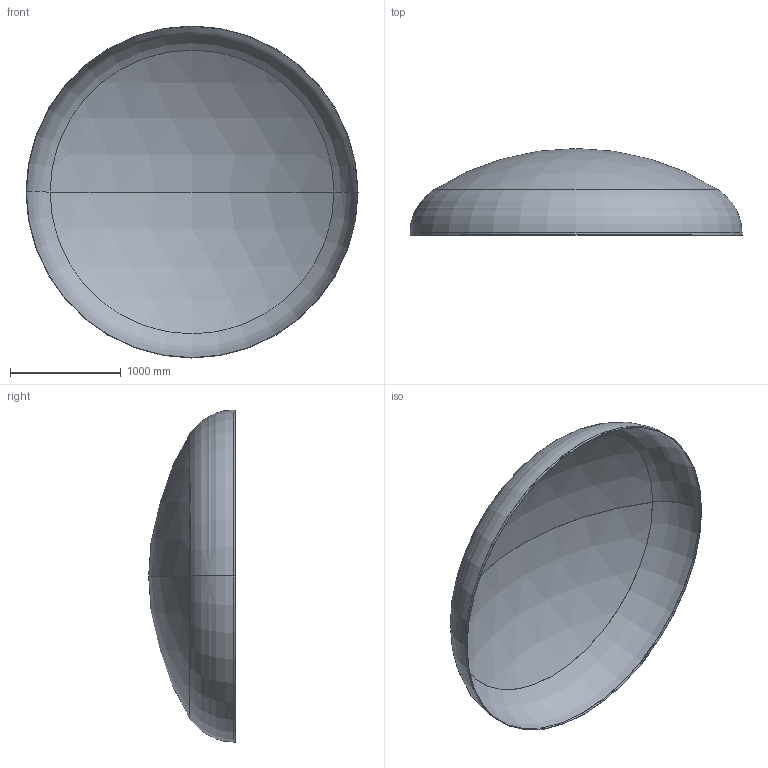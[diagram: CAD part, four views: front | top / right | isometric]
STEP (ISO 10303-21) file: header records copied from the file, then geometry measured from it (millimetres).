
FILE_DESCRIPTION (( 'STEP AP203' ), '1' );
FILE_NAME ('DIN 28013 Korbbogenform_-_Boden DIN 28013 - 3000 x 20 - I - s=3.step', '2016-07-01T17:24:17', ( '' ), ( '' ), 'SwSTEP 2.0', 'SolidWorks 2013', '' );
FILE_SCHEMA (( 'CONFIG_CONTROL_DESIGN' ));
Length unit declared in the file: millimetre
Products named in the file (1): DIN 28013 Korbbogenform_-_Boden DIN 28013 - 3000 x 20 - I - s=3
Bounding box: 3000 x 783.42 x 3000 mm (x, y, z)
Volume: 29874567.6 mm3; surface area: 19944635 mm2
Topology: 1 solids, 1 shells, 13 faces, 24 edges, 14 vertices
Faces by surface type: torus 4, cylinder 4, sphere 4, plane 1
Entity records: 407 total; most frequent: DIRECTION 72, CARTESIAN_POINT 52, ORIENTED_EDGE 48, AXIS2_PLACEMENT_3D 34, EDGE_CURVE 24, CIRCLE 20, EDGE_LOOP 14, VERTEX_POINT 14
